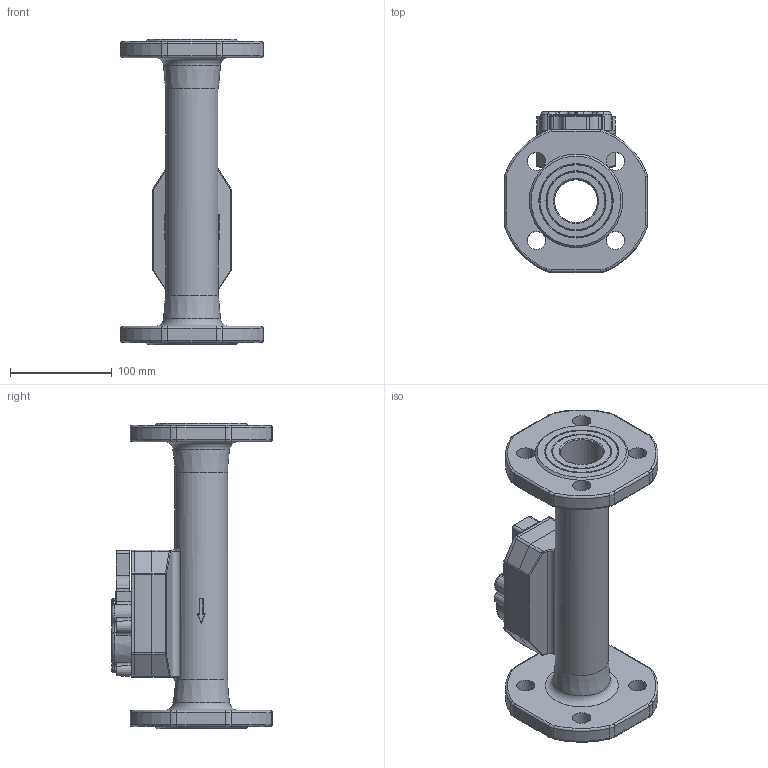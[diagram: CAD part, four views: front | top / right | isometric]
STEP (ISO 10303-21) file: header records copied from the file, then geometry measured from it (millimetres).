
FILE_DESCRIPTION( ( 'Unknown' ), '1' );
FILE_NAME( 'H:/440 pour vente_mai_2013/step_2/DN40_PN16-25_laiton_P417.stp', 'Unknown', ( 'Unknown' ), ( 'Unknown' ), 'PSStep 15.0.49', 'Unknown', ' ' );
FILE_SCHEMA( ( 'AUTOMOTIVE_DESIGN { 1 0 10303 214 1 1 1 1 }' ) );
Length unit declared in the file: millimetre
Products named in the file (6): 440_tête_rempli; 0440P011_rempli; 0440P012_rempli; 0440P060_rempli; Assem1; 0440P417_rempli
Assembly tree (5 placements, depth 3):
  Assem1
    0440P417_rempli
    440_tête_rempli
      0440P011_rempli
      0440P012_rempli
      0440P060_rempli
Bounding box: 140 x 158.2 x 300 mm (x, y, z)
Volume: 1144171.7 mm3; surface area: 244694.3 mm2
Topology: 4 solids, 9 shells, 431 faces, 1048 edges, 623 vertices
Faces by surface type: cylinder 138, torus 95, plane 95, cone 65, bspline 38
Full cylindrical faces by diameter (mm): 2.2 x1, 2.459 x2, 2.5 x1, 3.242 x4, 4.1 x1, 4.917 x1, 5 x1, 5.03 x1, 6.2 x7, 6.917 x2, 10.2 x2, 16 x2, 18 x8, 42 x1, 42.5 x2, 52 x1
Entity records: 21529 total; most frequent: CARTESIAN_POINT 8393, DIRECTION 2121, ORIENTED_EDGE 1850, EDGE_CURVE 925, AXIS2_PLACEMENT_3D 915, VERTEX_POINT 599, EDGE_LOOP 551, CIRCLE 497
